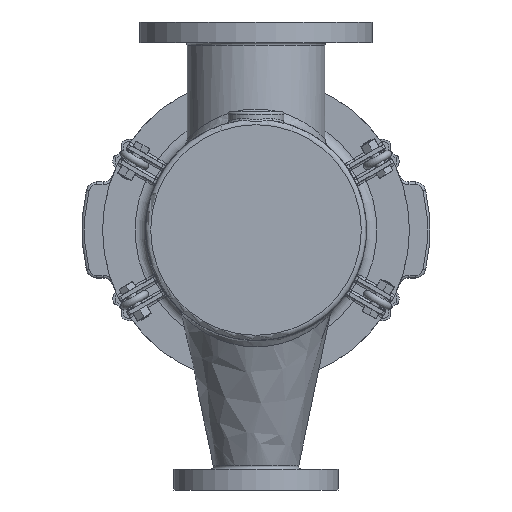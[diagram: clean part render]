
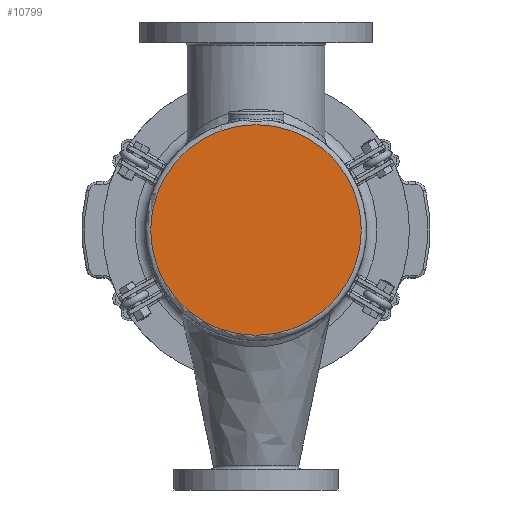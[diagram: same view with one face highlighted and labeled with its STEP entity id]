
A CAD part, front view. The second image highlights one B-rep face of the part: STEP entity #10799.
In plain terms, the highlighted planar face has unit normal (0, -1, 0).
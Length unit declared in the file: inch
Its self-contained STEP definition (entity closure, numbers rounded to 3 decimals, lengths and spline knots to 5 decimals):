
#1447=PLANE('',#11528);
#2355=FACE_OUTER_BOUND('',#3055,.T.);
#3055=EDGE_LOOP('',(#7236));
#3923=CIRCLE('',#11520,5.0625);
#4657=VERTEX_POINT('',#16665);
#5654=EDGE_CURVE('',#4657,#4657,#3923,.T.);
#7236=ORIENTED_EDGE('',*,*,#5654,.F.);
#10799=ADVANCED_FACE('',(#2355),#1447,.F.);
#11520=AXIS2_PLACEMENT_3D('',#16666,#12987,#12988);
#11528=AXIS2_PLACEMENT_3D('',#16677,#13003,#13004);
#12987=DIRECTION('center_axis',(0.,1.,0.));
#12988=DIRECTION('ref_axis',(1.,0.,0.));
#13003=DIRECTION('center_axis',(0.,1.,0.));
#13004=DIRECTION('ref_axis',(0.,0.,1.));
#16665=CARTESIAN_POINT('',(-5.0625,0.,0.));
#16666=CARTESIAN_POINT('Origin',(0.,0.,0.));
#16677=CARTESIAN_POINT('Origin',(0.,0.,0.));
